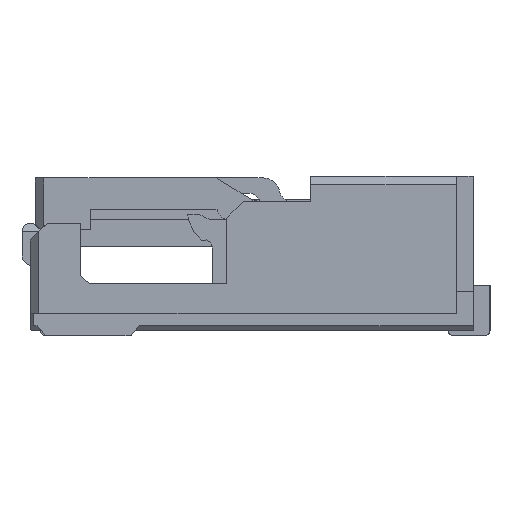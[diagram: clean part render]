
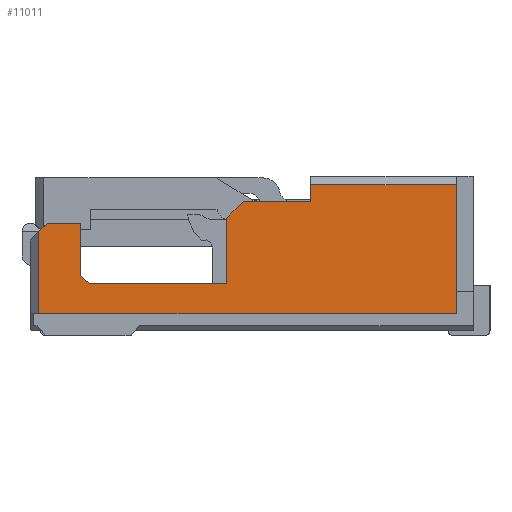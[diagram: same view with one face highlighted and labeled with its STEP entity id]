
A CAD part, left-side view. The second image highlights one B-rep face of the part: STEP entity #11011.
In plain terms, the highlighted planar face has unit normal (-1, 0, 0).
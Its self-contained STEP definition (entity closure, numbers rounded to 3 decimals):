
#591 = ORIENTED_EDGE ( 'NONE', *, *, #4769, .F. ) ;
#832 = LINE ( 'NONE', #25253, #8407 ) ;
#1016 = CARTESIAN_POINT ( 'NONE',  ( -0.3, 2.34, 0.33 ) ) ;
#1846 = EDGE_LOOP ( 'NONE', ( #17560, #21734, #18220, #24329, #591, #5582, #25067, #1923, #25100, #10868, #25736, #25310, #11996 ) ) ;
#1923 = ORIENTED_EDGE ( 'NONE', *, *, #4827, .F. ) ;
#1969 = DIRECTION ( 'NONE',  ( 0., -1., 0. ) ) ;
#1999 = CARTESIAN_POINT ( 'NONE',  ( -0.3, 2.59, 0. ) ) ;
#2164 = CARTESIAN_POINT ( 'NONE',  ( -0.3, 0.1, 0.87 ) ) ;
#2616 = CARTESIAN_POINT ( 'NONE',  ( -0.3, 1.47, 0.82 ) ) ;
#2650 = VECTOR ( 'NONE', #26398, 1000. ) ;
#3251 = VECTOR ( 'NONE', #17767, 1000. ) ;
#3794 = LINE ( 'NONE', #1016, #9867 ) ;
#4024 = VERTEX_POINT ( 'NONE', #24083 ) ;
#4039 = VERTEX_POINT ( 'NONE', #21313 ) ;
#4109 = DIRECTION ( 'NONE',  ( 0., 1., 0. ) ) ;
#4604 = FACE_OUTER_BOUND ( 'NONE', #1846, .T. ) ;
#4757 = CARTESIAN_POINT ( 'NONE',  ( -0.3, 0., 0.87 ) ) ;
#4769 = EDGE_CURVE ( 'NONE', #10742, #4024, #10094, .T. ) ;
#4827 = EDGE_CURVE ( 'NONE', #4039, #19504, #18619, .T. ) ;
#5402 = LINE ( 'NONE', #2616, #14010 ) ;
#5417 = EDGE_CURVE ( 'NONE', #19504, #21647, #832, .T. ) ;
#5582 = ORIENTED_EDGE ( 'NONE', *, *, #5718, .F. ) ;
#5718 = EDGE_CURVE ( 'NONE', #21647, #10742, #7519, .T. ) ;
#6047 = VECTOR ( 'NONE', #10730, 1000. ) ;
#6894 = DIRECTION ( 'NONE',  ( -1., 0., 0. ) ) ;
#7519 = LINE ( 'NONE', #4757, #14942 ) ;
#7520 = EDGE_CURVE ( 'NONE', #20301, #20059, #3794, .T. ) ;
#8030 = DIRECTION ( 'NONE',  ( 0., -0.707, 0.707 ) ) ;
#8243 = VECTOR ( 'NONE', #10038, 1000. ) ;
#8402 = CARTESIAN_POINT ( 'NONE',  ( -0.3, 0.97, 0.87 ) ) ;
#8407 = VECTOR ( 'NONE', #22487, 1000. ) ;
#9047 = VERTEX_POINT ( 'NONE', #11437 ) ;
#9211 = VECTOR ( 'NONE', #8030, 1000. ) ;
#9216 = VECTOR ( 'NONE', #20071, 1000. ) ;
#9560 = LINE ( 'NONE', #22860, #9216 ) ;
#9664 = CARTESIAN_POINT ( 'NONE',  ( -0.3, 0., 0. ) ) ;
#9768 = CARTESIAN_POINT ( 'NONE',  ( -0.3, 2.34, 0.64 ) ) ;
#9867 = VECTOR ( 'NONE', #25435, 1000. ) ;
#10038 = DIRECTION ( 'NONE',  ( 0., -1., 0. ) ) ;
#10094 = LINE ( 'NONE', #17814, #10498 ) ;
#10171 = CARTESIAN_POINT ( 'NONE',  ( -0.3, 1.47, 0.67 ) ) ;
#10489 = CARTESIAN_POINT ( 'NONE',  ( -0.3, 2.34, 0.33 ) ) ;
#10491 = EDGE_CURVE ( 'NONE', #19441, #13148, #13150, .T. ) ;
#10498 = VECTOR ( 'NONE', #15041, 1000. ) ;
#10730 = DIRECTION ( 'NONE',  ( 0., -1., 0. ) ) ;
#10742 = VERTEX_POINT ( 'NONE', #2164 ) ;
#10833 = CARTESIAN_POINT ( 'NONE',  ( -0.3, 2.59, 0.59 ) ) ;
#10868 = ORIENTED_EDGE ( 'NONE', *, *, #19952, .F. ) ;
#11011 = ADVANCED_FACE ( 'NONE', ( #4604 ), #18044, .T. ) ;
#11436 = AXIS2_PLACEMENT_3D ( 'NONE', #9664, #6894, #4109 ) ;
#11437 = CARTESIAN_POINT ( 'NONE',  ( -0.3, 2.54, 0.64 ) ) ;
#11996 = ORIENTED_EDGE ( 'NONE', *, *, #27172, .F. ) ;
#12377 = EDGE_CURVE ( 'NONE', #9047, #25894, #24664, .T. ) ;
#12841 = CARTESIAN_POINT ( 'NONE',  ( -0.3, 0., 0.28 ) ) ;
#13053 = DIRECTION ( 'NONE',  ( 0., -1., 0. ) ) ;
#13148 = VERTEX_POINT ( 'NONE', #14298 ) ;
#13150 = LINE ( 'NONE', #1999, #2650 ) ;
#13541 = CARTESIAN_POINT ( 'NONE',  ( -0.3, 0., 0.64 ) ) ;
#14010 = VECTOR ( 'NONE', #27018, 1000. ) ;
#14298 = CARTESIAN_POINT ( 'NONE',  ( -0.3, 2.59, 0.59 ) ) ;
#14942 = VECTOR ( 'NONE', #1969, 1000. ) ;
#15041 = DIRECTION ( 'NONE',  ( 0., 0., -1. ) ) ;
#15318 = DIRECTION ( 'NONE',  ( 0., 0., -1. ) ) ;
#15377 = VERTEX_POINT ( 'NONE', #10171 ) ;
#15641 = LINE ( 'NONE', #12841, #8243 ) ;
#15854 = CARTESIAN_POINT ( 'NONE',  ( -0.3, 0., 0.77 ) ) ;
#16182 = VERTEX_POINT ( 'NONE', #26866 ) ;
#17082 = CARTESIAN_POINT ( 'NONE',  ( -0.3, 2.59, 0.1 ) ) ;
#17560 = ORIENTED_EDGE ( 'NONE', *, *, #12377, .F. ) ;
#17767 = DIRECTION ( 'NONE',  ( 0., 1., 0. ) ) ;
#17814 = CARTESIAN_POINT ( 'NONE',  ( -0.3, 0.1, 0. ) ) ;
#18044 = PLANE ( 'NONE',  #11436 ) ;
#18095 = CARTESIAN_POINT ( 'NONE',  ( -0.3, 2.34, 0. ) ) ;
#18220 = ORIENTED_EDGE ( 'NONE', *, *, #10491, .F. ) ;
#18619 = LINE ( 'NONE', #15854, #21764 ) ;
#18826 = EDGE_CURVE ( 'NONE', #15377, #4039, #9560, .T. ) ;
#18828 = CARTESIAN_POINT ( 'NONE',  ( -0.3, 2.29, 0.28 ) ) ;
#19441 = VERTEX_POINT ( 'NONE', #17082 ) ;
#19504 = VERTEX_POINT ( 'NONE', #20672 ) ;
#19952 = EDGE_CURVE ( 'NONE', #16182, #15377, #5402, .T. ) ;
#20059 = VERTEX_POINT ( 'NONE', #18828 ) ;
#20071 = DIRECTION ( 'NONE',  ( 0., -0.707, 0.707 ) ) ;
#20301 = VERTEX_POINT ( 'NONE', #10489 ) ;
#20548 = CARTESIAN_POINT ( 'NONE',  ( -0.3, 0., 0.1 ) ) ;
#20672 = CARTESIAN_POINT ( 'NONE',  ( -0.3, 0.97, 0.77 ) ) ;
#20881 = LINE ( 'NONE', #18095, #24458 ) ;
#21313 = CARTESIAN_POINT ( 'NONE',  ( -0.3, 1.37, 0.77 ) ) ;
#21647 = VERTEX_POINT ( 'NONE', #8402 ) ;
#21734 = ORIENTED_EDGE ( 'NONE', *, *, #22776, .F. ) ;
#21764 = VECTOR ( 'NONE', #13053, 1000. ) ;
#21779 = EDGE_CURVE ( 'NONE', #20059, #16182, #15641, .T. ) ;
#22009 = LINE ( 'NONE', #10833, #9211 ) ;
#22378 = EDGE_CURVE ( 'NONE', #4024, #19441, #26106, .T. ) ;
#22487 = DIRECTION ( 'NONE',  ( 0., 0., 1. ) ) ;
#22776 = EDGE_CURVE ( 'NONE', #13148, #9047, #22009, .T. ) ;
#22860 = CARTESIAN_POINT ( 'NONE',  ( -0.3, 1.47, 0.67 ) ) ;
#24083 = CARTESIAN_POINT ( 'NONE',  ( -0.3, 0.1, 0.1 ) ) ;
#24329 = ORIENTED_EDGE ( 'NONE', *, *, #22378, .F. ) ;
#24458 = VECTOR ( 'NONE', #15318, 1000. ) ;
#24664 = LINE ( 'NONE', #13541, #6047 ) ;
#25067 = ORIENTED_EDGE ( 'NONE', *, *, #5417, .F. ) ;
#25100 = ORIENTED_EDGE ( 'NONE', *, *, #18826, .F. ) ;
#25253 = CARTESIAN_POINT ( 'NONE',  ( -0.3, 0.97, 0. ) ) ;
#25310 = ORIENTED_EDGE ( 'NONE', *, *, #7520, .F. ) ;
#25435 = DIRECTION ( 'NONE',  ( 0., -0.707, -0.707 ) ) ;
#25736 = ORIENTED_EDGE ( 'NONE', *, *, #21779, .F. ) ;
#25894 = VERTEX_POINT ( 'NONE', #9768 ) ;
#26106 = LINE ( 'NONE', #20548, #3251 ) ;
#26398 = DIRECTION ( 'NONE',  ( 0., 0., 1. ) ) ;
#26866 = CARTESIAN_POINT ( 'NONE',  ( -0.3, 1.47, 0.28 ) ) ;
#27018 = DIRECTION ( 'NONE',  ( 0., 0., 1. ) ) ;
#27172 = EDGE_CURVE ( 'NONE', #25894, #20301, #20881, .T. ) ;
